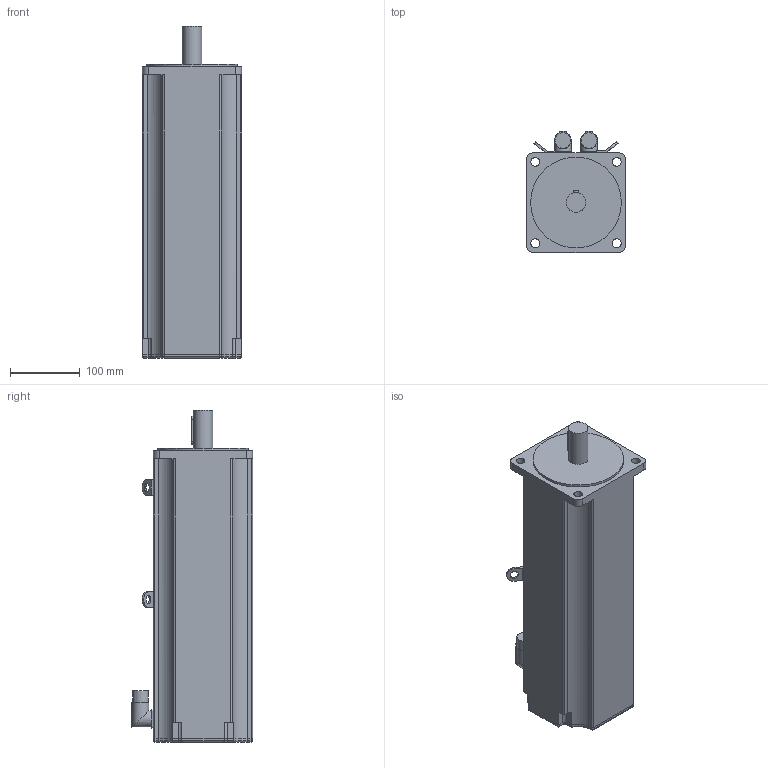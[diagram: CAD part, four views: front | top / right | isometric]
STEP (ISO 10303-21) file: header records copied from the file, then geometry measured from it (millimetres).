
FILE_DESCRIPTION(/* description */ (''),/* implementation_level */ '2;1');
FILE_NAME(/* name */ '\\Lafnas01\disegni\Archivi Lafert\3D\CAD 3D\MODELLI\Assiemi clienti\Serad\Modelli 3D Serad\B71Q\Encoder\Enc With Brake\B7135Qxx6BRx2033.ipt.stp',/* time_stamp */ '2015-09-07T10:52:22+02:00',/* author */ ('Pastrello Ylenia'),/* organization */ (''),/* preprocessor_version */ 'ST-DEVELOPER v15.6',/* originating_system */ 'Autodesk Inventor 2015',/* authorisation */ '');
FILE_SCHEMA (('AUTOMOTIVE_DESIGN { 1 0 10303 214 3 1 1 }'));
Length unit declared in the file: millimetre
Products named in the file (1): B7135Qxx6BRx2033
Bounding box: 142 x 173.5 x 475.5 mm (x, y, z)
Volume: 7405239.4 mm3; surface area: 274788.4 mm2
Topology: 1 solids, 1 shells, 172 faces, 450 edges, 290 vertices
Faces by surface type: plane 86, cylinder 74, torus 8, sphere 4
Full cylindrical faces by diameter (mm): 12 x2, 12.5 x4, 22.7 x2, 24 x2, 28 x1, 130 x1
Entity records: 5354 total; most frequent: CARTESIAN_POINT 1031, DIRECTION 920, ORIENTED_EDGE 868, EDGE_CURVE 434, AXIS2_PLACEMENT_3D 323, VERTEX_POINT 286, LINE 274, VECTOR 274
